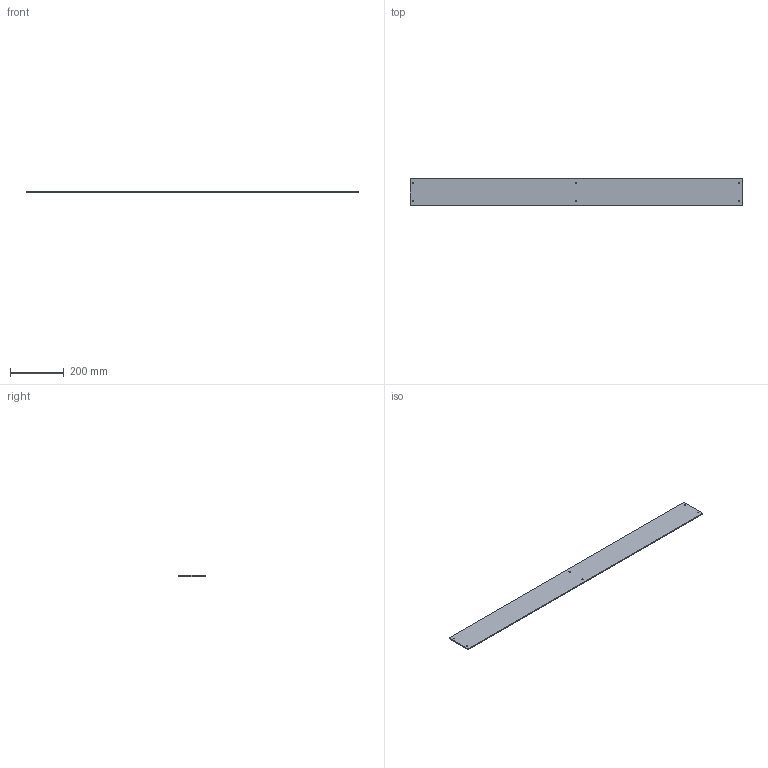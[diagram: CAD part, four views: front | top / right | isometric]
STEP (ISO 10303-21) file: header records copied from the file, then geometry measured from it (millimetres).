
FILE_DESCRIPTION(('HOOPS Exchange Step'),'2;1');
FILE_NAME('/private/var/mobile/Containers/Data/Application/E4481369-A8C6-45C6-A958-B1853E49479D/tmp/export/temp_export','2021-04-12T21:43:18+00:00',('mobile'),('Shapr3D Limited'),'HOOPS Exchange 2020.2','Shapr3D','Authorized');
FILE_SCHEMA( ('AP203_CONFIGURATION_CONTROLLED_3D_DESIGN_OF_MECHANICAL_PARTS_AND_ASSEMBLIES_MIM_LF') );
Length unit declared in the file: millimetre
Products named in the file (3): 0; /private/var/mobile/Containers/Data/Application/E4481369-A8C6-45C6-A958-B1853E49479D/tmp/B8D8DA2D-7B2B-4845-8C6A-8F1BACD828DE.tmp
Assembly tree (2 placements, depth 3):
  /private/var/mobile/Containers/Data/Application/E4481369-A8C6-45C6-A958-B1853E49479D/tmp/B8D8DA2D-7B2B-4845-8C6A-8F1BACD828DE.tmp
    0
      0
Bounding box: 1240 x 100 x 4 mm (x, y, z)
Volume: 495525.3 mm3; surface area: 258852.8 mm2
Topology: 1 solids, 1 shells, 16 faces, 42 edges, 28 vertices
Faces by surface type: cylinder 10, plane 6
Full cylindrical faces by diameter (mm): 5 x6
Entity records: 600 total; most frequent: DIRECTION 104, CARTESIAN_POINT 91, ORIENTED_EDGE 84, EDGE_CURVE 42, AXIS2_PLACEMENT_3D 41, VERTEX_POINT 28, EDGE_LOOP 28, FACE_BOUND 28
